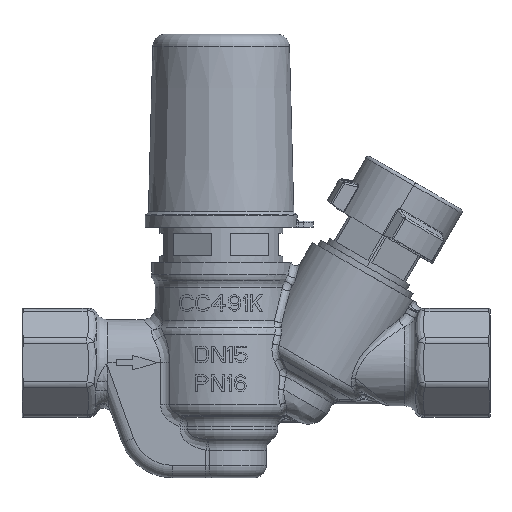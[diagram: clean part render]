
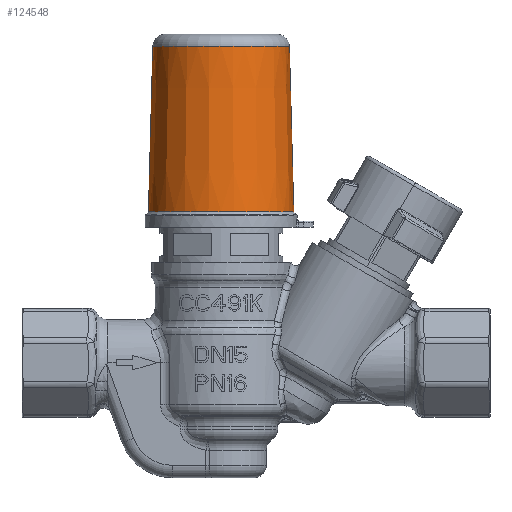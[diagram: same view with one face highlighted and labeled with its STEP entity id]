
A CAD part, top view. The second image highlights one B-rep face of the part: STEP entity #124548.
In plain terms, the highlighted conical face has half-angle 1.5 degrees and reference radius 17.174 mm.
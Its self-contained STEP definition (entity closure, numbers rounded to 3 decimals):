
#123161=DIRECTION('',(-0.026,1.,0.));
#123162=VECTOR('',#123161,40.335);
#123163=CARTESIAN_POINT('',(17.702,3.758,0.));
#123164=LINE('',#123163,#123162);
#123170=DIRECTION('',(0.026,1.,0.));
#123171=VECTOR('',#123170,40.335);
#123172=CARTESIAN_POINT('',(-17.702,3.758,0.));
#123173=LINE('',#123172,#123171);
#123202=CARTESIAN_POINT('',(0.,3.758,0.));
#123203=DIRECTION('',(0.,-1.,0.));
#123204=DIRECTION('',(1.,0.,0.));
#123205=AXIS2_PLACEMENT_3D('',#123202,#123203,#123204);
#123207=CARTESIAN_POINT('',(0.,44.079,0.));
#123208=DIRECTION('',(0.,1.,0.));
#123209=DIRECTION('',(-1.,0.,0.));
#123210=AXIS2_PLACEMENT_3D('',#123207,#123208,#123209);
#124213=CARTESIAN_POINT('',(-16.646,44.079,0.));
#124214=CARTESIAN_POINT('',(16.646,44.079,0.));
#124215=VERTEX_POINT('',#124213);
#124216=VERTEX_POINT('',#124214);
#124403=CARTESIAN_POINT('',(17.702,3.758,0.));
#124404=CARTESIAN_POINT('',(-17.702,3.758,0.));
#124405=VERTEX_POINT('',#124403);
#124406=VERTEX_POINT('',#124404);
#124537=CARTESIAN_POINT('',(0.,23.918,0.));
#124538=DIRECTION('',(0.,-1.,0.));
#124539=DIRECTION('',(-1.,0.,0.));
#124540=AXIS2_PLACEMENT_3D('',#124537,#124538,#124539);
#124541=CONICAL_SURFACE('',#124540,17.174,1.5);
#124542=ORIENTED_EDGE('',*,*,#124531,.T.);
#124543=ORIENTED_EDGE('',*,*,#124475,.T.);
#124544=ORIENTED_EDGE('',*,*,#124445,.T.);
#124545=ORIENTED_EDGE('',*,*,#124472,.F.);
#124546=EDGE_LOOP('',(#124542,#124543,#124544,#124545));
#124547=FACE_OUTER_BOUND('',#124546,.F.);
#124548=ADVANCED_FACE('',(#124547),#124541,.T.);
#123206=CIRCLE('',#123205,17.702);
#123211=CIRCLE('',#123210,16.646);
#124445=EDGE_CURVE('',#124215,#124216,#123211,.T.);
#124472=EDGE_CURVE('',#124405,#124216,#123164,.T.);
#124475=EDGE_CURVE('',#124406,#124215,#123173,.T.);
#124531=EDGE_CURVE('',#124405,#124406,#123206,.T.);
